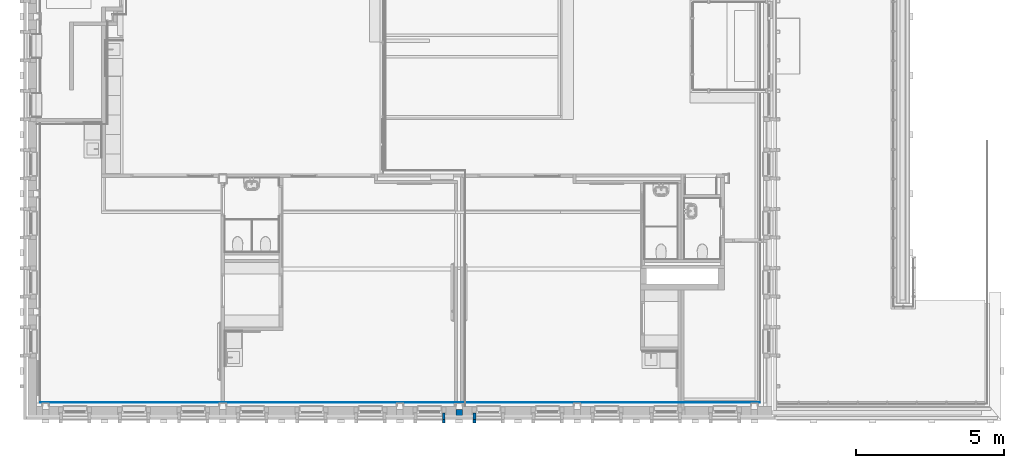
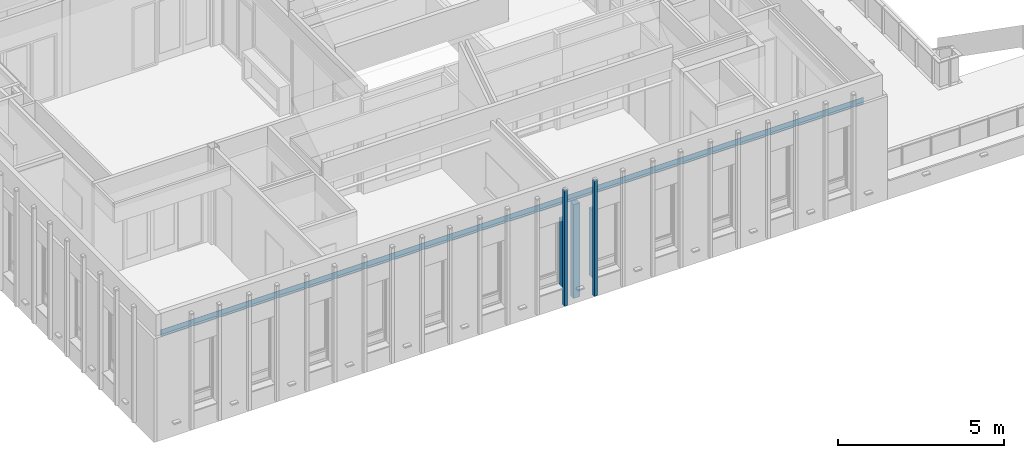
# One storey, part 31 of 118: 6 walls.
"""IFC2X3 building model written with IfcOpenShell, lengths in millimetres."""

from ifc_helpers import new_model, entity, si_unit, converted_unit, derived_unit, direction, frame, frame_2d, origin, place, context, subcontext, project, spatial, rectangle, extrude, material, layer, layer_set, layer_usage, type_object, element, save


model = new_model("IFC2X3")

# Units and contexts
model_context = context("Model", 3, precision=0.01, world=origin(), true_north=direction((6.123031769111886e-17, 1.0)))
plan_context = context("Plan", 3, precision=0.01, world=origin(), true_north=direction((6.123031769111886e-17, 1.0)))
body_context = subcontext(model_context, "Body", "Model", "MODEL_VIEW")
ifc_project = project(units=[si_unit("LENGTHUNIT", "METRE", prefix="MILLI"), si_unit("AREAUNIT", "SQUARE_METRE"), si_unit("VOLUMEUNIT", "CUBIC_METRE"), converted_unit("PLANEANGLEUNIT", "DEGREE", entity("IfcRatioMeasure", 0.017453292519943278), si_unit("PLANEANGLEUNIT", "RADIAN"), dimensions=[0, 0, 0, 0, 0, 0, 0]), si_unit("MASSUNIT", "GRAM", prefix="KILO"), derived_unit("MASSDENSITYUNIT", [(si_unit("MASSUNIT", "GRAM", prefix="KILO"), 1), (si_unit("LENGTHUNIT", "METRE"), -3)]), derived_unit("IONCONCENTRATIONUNIT", [(si_unit("MASSUNIT", "GRAM", prefix="KILO"), 1), (si_unit("LENGTHUNIT", "METRE"), -3)]), derived_unit("MOMENTOFINERTIAUNIT", [(si_unit("LENGTHUNIT", "METRE"), 4)]), si_unit("TIMEUNIT", "SECOND"), si_unit("FREQUENCYUNIT", "HERTZ"), si_unit("THERMODYNAMICTEMPERATUREUNIT", "DEGREE_CELSIUS"), derived_unit("THERMALTRANSMITTANCEUNIT", [(si_unit("MASSUNIT", "GRAM", prefix="KILO"), 1), (si_unit("THERMODYNAMICTEMPERATUREUNIT", "KELVIN"), -1), (si_unit("TIMEUNIT", "SECOND"), -3)]), derived_unit("THERMALCONDUCTANCEUNIT", [(si_unit("MASSUNIT", "GRAM", prefix="KILO"), 1), (si_unit("THERMODYNAMICTEMPERATUREUNIT", "KELVIN"), -1), (si_unit("TIMEUNIT", "SECOND"), -3), (si_unit("LENGTHUNIT", "METRE"), 1)]), derived_unit("VOLUMETRICFLOWRATEUNIT", [(si_unit("LENGTHUNIT", "METRE"), 3), (si_unit("TIMEUNIT", "SECOND"), -1)]), derived_unit("MASSFLOWRATEUNIT", [(si_unit("MASSUNIT", "GRAM", prefix="KILO"), 1), (si_unit("TIMEUNIT", "SECOND"), -1)]), derived_unit("ROTATIONALFREQUENCYUNIT", [(si_unit("TIMEUNIT", "SECOND"), -1)]), si_unit("ELECTRICCURRENTUNIT", "AMPERE"), si_unit("ELECTRICVOLTAGEUNIT", "VOLT"), si_unit("POWERUNIT", "WATT"), si_unit("FORCEUNIT", "NEWTON", prefix="KILO"), si_unit("ILLUMINANCEUNIT", "LUX"), si_unit("LUMINOUSFLUXUNIT", "LUMEN"), si_unit("LUMINOUSINTENSITYUNIT", "CANDELA"), derived_unit("USERDEFINED", [(si_unit("MASSUNIT", "GRAM", prefix="KILO"), -1), (si_unit("LENGTHUNIT", "METRE"), -2), (si_unit("TIMEUNIT", "SECOND"), 3), (si_unit("LUMINOUSFLUXUNIT", "LUMEN"), 1)]), derived_unit("USERDEFINED", [(si_unit("MASSUNIT", "GRAM", prefix="KILO"), 1), (si_unit("TIMEUNIT", "SECOND"), -3), (si_unit("LENGTHUNIT", "METRE"), 3), (si_unit("ELECTRICCURRENTUNIT", "AMPERE"), -2)]), derived_unit("SOUNDPOWERUNIT", [(si_unit("MASSUNIT", "GRAM", prefix="KILO"), 1), (si_unit("TIMEUNIT", "SECOND"), -3), (si_unit("LENGTHUNIT", "METRE"), 2)]), derived_unit("SOUNDPRESSUREUNIT", [(si_unit("MASSUNIT", "GRAM", prefix="KILO"), 1), (si_unit("LENGTHUNIT", "METRE"), -1), (si_unit("TIMEUNIT", "SECOND"), -2)]), derived_unit("LINEARVELOCITYUNIT", [(si_unit("LENGTHUNIT", "METRE"), 1), (si_unit("TIMEUNIT", "SECOND"), -1)]), si_unit("PRESSUREUNIT", "PASCAL"), derived_unit("USERDEFINED", [(si_unit("MASSUNIT", "GRAM", prefix="KILO"), 1), (si_unit("LENGTHUNIT", "METRE"), -2), (si_unit("TIMEUNIT", "SECOND"), -2)]), derived_unit("LINEARFORCEUNIT", [(si_unit("MASSUNIT", "GRAM", prefix="KILO"), 1), (si_unit("TIMEUNIT", "SECOND"), -2)]), derived_unit("PLANARFORCEUNIT", [(si_unit("MASSUNIT", "GRAM", prefix="KILO"), 1), (si_unit("LENGTHUNIT", "METRE"), -1), (si_unit("TIMEUNIT", "SECOND"), -2)]), derived_unit("SPECIFICHEATCAPACITYUNIT", [(si_unit("THERMODYNAMICTEMPERATUREUNIT", "KELVIN"), -1), (si_unit("LENGTHUNIT", "METRE"), 2), (si_unit("TIMEUNIT", "SECOND"), -2)]), derived_unit("HEATINGVALUEUNIT", [(si_unit("LENGTHUNIT", "METRE"), 2), (si_unit("TIMEUNIT", "SECOND"), -2)]), derived_unit("VAPORPERMEABILITYUNIT", [(si_unit("LENGTHUNIT", "METRE"), -1), (si_unit("TIMEUNIT", "SECOND"), 1)]), derived_unit("DYNAMICVISCOSITYUNIT", [(si_unit("MASSUNIT", "GRAM", prefix="KILO"), 1), (si_unit("TIMEUNIT", "SECOND"), -1), (si_unit("LENGTHUNIT", "METRE"), -1)]), derived_unit("THERMALEXPANSIONCOEFFICIENTUNIT", [(si_unit("THERMODYNAMICTEMPERATUREUNIT", "KELVIN"), -1)]), derived_unit("MODULUSOFELASTICITYUNIT", [(si_unit("MASSUNIT", "GRAM", prefix="KILO"), 1), (si_unit("LENGTHUNIT", "METRE"), -1), (si_unit("TIMEUNIT", "SECOND"), -2)]), derived_unit("ISOTHERMALMOISTURECAPACITYUNIT", [(si_unit("LENGTHUNIT", "METRE"), 3), (si_unit("MASSUNIT", "GRAM", prefix="KILO"), -1)]), derived_unit("MOISTUREDIFFUSIVITYUNIT", [(si_unit("TIMEUNIT", "SECOND"), -1), (si_unit("LENGTHUNIT", "METRE"), 2)])], contexts=[model_context, plan_context])

# Site, building, storey
site_placement = place(None, origin())
site = spatial("IfcSite", under=ifc_project, at=site_placement, Name="Locatie", CompositionType="ELEMENT")
building_placement = place(site_placement, origin())
building = spatial("IfcBuilding", under=site, at=building_placement, Name="Bouwwerk", CompositionType="ELEMENT")
storey_placement = place(building_placement, frame((0.0, 0.0, 7800.0)))
storey = spatial("IfcBuildingStorey", under=building, at=storey_placement, Name="02 tweede verdieping", CompositionType="ELEMENT", Elevation=7800.000000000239)

# Walls
ifc_material_1 = material(Name="g2_metselwerk_geel licht")
ifc_layer_1 = layer(ifc_material_1, 100.0)
ifc_layer_set_1 = layer_set([ifc_layer_1], Name="Basic Wall:21_WA_metselwerk_licht_100_gen_bdg")
ifc_layer_usage_1 = layer_usage(ifc_layer_set_1, "AXIS2", "NEGATIVE", 50.0)
wall_type_1 = type_object("IfcWallType", Name="Basic Wall:21_WA_metselwerk_licht_100_gen_bdg", PredefinedType="STANDARD", material=ifc_layer_set_1)
wall_1_placement = place(storey_placement, frame((24818.0, 9770.0, 603.0), z_axis=(0.0, 0.0, 1.0), x_axis=(0.0, -1.0, 0.0)))
element("IfcWallStandardCase", 1, at=wall_1_placement, inside=storey, type_object=wall_type_1, material=ifc_layer_usage_1, Name="Basic Wall:21_WA_metselwerk_licht_100_gen_bdg", ObjectType="Basic Wall:21_WA_metselwerk_licht_100_gen_bdg", context=body_context, shape_type="SweptSolid", body=[
    extrude(rectangle(XDim=210.00000000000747, YDim=100.00000000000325, at=frame_2d((105.00000000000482, -1.7053025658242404e-13), x_axis=(-1.0, 0.0))), origin(), (0.0, 0.0, 1.0), 2471.999999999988),
])
wall_2_placement = place(storey_placement, frame((24818.0, 9560.0, 0.0), z_axis=(0.0, 0.0, 1.0), x_axis=(0.0, -1.0, 0.0)))
element("IfcWallStandardCase", 2, at=wall_2_placement, inside=storey, type_object=wall_type_1, material=ifc_layer_usage_1, Name="Basic Wall:21_WA_metselwerk_licht_100_gen_bdg", ObjectType="Basic Wall:21_WA_metselwerk_licht_100_gen_bdg", context=body_context, shape_type="SweptSolid", body=[
    extrude(rectangle(XDim=115.00000000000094, YDim=100.00000000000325, at=frame_2d((57.50000000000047, 3.730349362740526e-13), x_axis=(-1.0, 0.0))), origin(), (0.0, 0.0, 1.0), 4232.000000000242),
])
ifc_layer_usage_2 = layer_usage(ifc_layer_set_1, "AXIS2", "POSITIVE", -50.0)
wall_3_placement = place(storey_placement, frame((23782.0, 9770.0, 603.0), z_axis=(0.0, 0.0, 1.0), x_axis=(0.0, -1.0, 0.0)))
element("IfcWallStandardCase", 3, at=wall_3_placement, inside=storey, type_object=wall_type_1, material=ifc_layer_usage_2, Name="Basic Wall:21_WA_metselwerk_licht_100_gen_bdg", ObjectType="Basic Wall:21_WA_metselwerk_licht_100_gen_bdg", context=body_context, shape_type="SweptSolid", body=[
    extrude(rectangle(XDim=210.00000000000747, YDim=100.00000000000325, at=frame_2d((105.00000000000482, 1.3145040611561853e-12), x_axis=(-1.0, 0.0))), origin(), (0.0, 0.0, 1.0), 2471.999999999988),
])
wall_4_placement = place(storey_placement, frame((23782.0, 9560.0, 0.0), z_axis=(0.0, 0.0, 1.0), x_axis=(0.0, -1.0, 0.0)))
element("IfcWallStandardCase", 4, at=wall_4_placement, inside=storey, type_object=wall_type_1, material=ifc_layer_usage_2, Name="Basic Wall:21_WA_metselwerk_licht_100_gen_bdg", ObjectType="Basic Wall:21_WA_metselwerk_licht_100_gen_bdg", context=body_context, shape_type="SweptSolid", body=[
    extrude(rectangle(XDim=115.00000000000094, YDim=100.00000000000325, at=frame_2d((57.50000000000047, 3.730349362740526e-13), x_axis=(-1.0, 0.0))), origin(), (0.0, 0.0, 1.0), 4231.99999999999),
])
ifc_material_2 = material(Name="n7_isolatie_Resol")
ifc_layer_2 = layer(ifc_material_2, 200.0)
ifc_layer_set_2 = layer_set([ifc_layer_2], Name="Basic Wall:NLRS_22_WA_HSB bispouw 200_gen_ISR")
ifc_layer_usage_3 = layer_usage(ifc_layer_set_2, "AXIS2", "NEGATIVE", 100.0)
wall_type_2 = type_object("IfcWallType", Name="Basic Wall:NLRS_22_WA_HSB bispouw 200_gen_ISR", PredefinedType="STANDARD", material=ifc_layer_set_2)
wall_5_placement = place(storey_placement, frame((24410.0, 9800.0, -30.0), z_axis=(0.0, 0.0, 1.0), x_axis=(-1.0, 0.0, 0.0)))
element("IfcWallStandardCase", 5, at=wall_5_placement, inside=storey, type_object=wall_type_2, material=ifc_layer_usage_3, Name="Basic Wall:NLRS_22_WA_HSB bispouw 200_gen_ISR", ObjectType="Basic Wall:NLRS_22_WA_HSB bispouw 200_gen_ISR", context=body_context, shape_type="SweptSolid", body=[
    extrude(rectangle(XDim=220.000000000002, YDim=200.0, at=frame_2d((110.00000000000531, 6.394884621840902e-13), x_axis=(-1.0, 0.0))), origin(), (0.0, 0.0, 1.0), 3440.0000000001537),
])
ifc_material_3 = material(Name="ISR_brandwerende beplating")
ifc_layer_3 = layer(ifc_material_3, 15.0)
ifc_layer_set_3 = layer_set([ifc_layer_3], Name="Basic Wall:NLRS_41_WA_brandwerende beplating 15_gen_ISR")
ifc_layer_usage_4 = layer_usage(ifc_layer_set_3, "AXIS2", "NEGATIVE", 7.5)
wall_type_3 = type_object("IfcWallType", Name="Basic Wall:NLRS_41_WA_brandwerende beplating 15_gen_ISR", PredefinedType="STANDARD", material=ifc_layer_set_3)
wall_6_placement = place(storey_placement, frame((10115.0, 10127.49999999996, 3255.0)))
element("IfcWallStandardCase", 6, at=wall_6_placement, inside=storey, type_object=wall_type_3, material=ifc_layer_usage_4, Name="Basic Wall:NLRS_41_WA_brandwerende beplating 15_gen_ISR", ObjectType="Basic Wall:NLRS_41_WA_brandwerende beplating 15_gen_ISR", context=body_context, shape_type="SweptSolid", body=[
    extrude(rectangle(XDim=24369.999999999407, YDim=15.00000000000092, at=frame_2d((12184.999999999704, -5.928590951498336e-13), x_axis=(-1.0, 0.0))), origin(), (0.0, 0.0, 1.0), 244.99999999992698),
])

save(model, "model.ifc")
